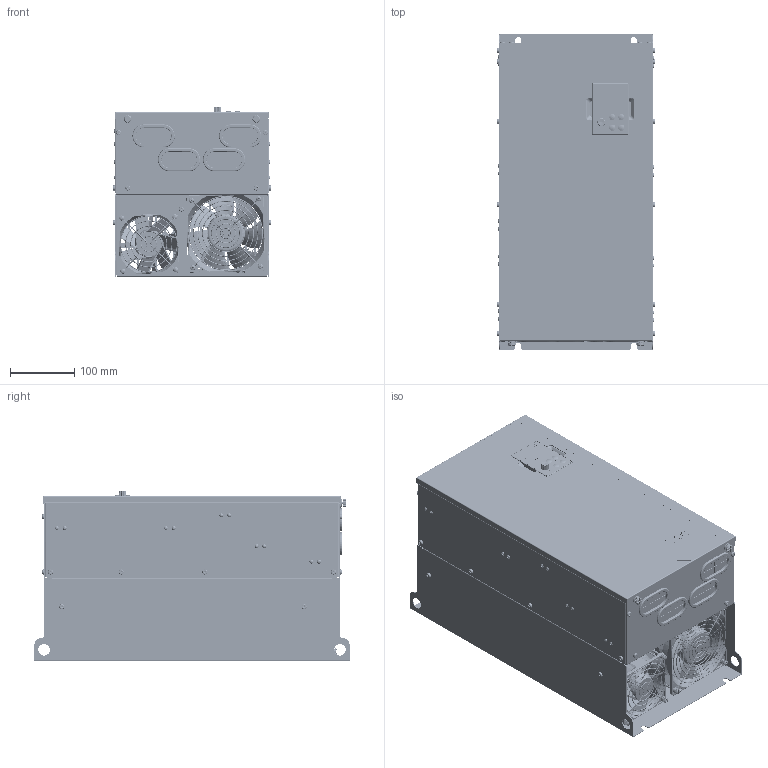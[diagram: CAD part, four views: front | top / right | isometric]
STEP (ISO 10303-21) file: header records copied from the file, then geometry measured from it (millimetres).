
FILE_DESCRIPTION((''),'2;1');
FILE_NAME('AD80-S5-DRIVE_45-55KW_ASM','2025-06-27T11:07:11',('wendong.luo'),(''),'CREO PARAMETRIC BY PTC INC, 2024374','CREO PARAMETRIC BY PTC INC, 2024374','');
FILE_SCHEMA(('CONFIG_CONTROL_DESIGN','GEOMETRIC_VALIDATION_PROPERTIES_MIM'));
Products named in the file (56): S5-MECHANICAL-PART_45-55KW; 25898; 35188; FAN12038_ASM; FAN9238; M0200009; M0200019; M0202090; M4-SPRING; M4-WASHER; M0202090_ASM; FAN-55KW_ASM; M0100015; SET230; E0400186; M0203246; M0203249; M0204033; M0202008; M0202003; P_FHS_5_10; RIVETING-NUT-4_; PEM-BSO-M4-10; M0202010; M0202094; M8-WASHER; M8-SPRING; M0202094_ASM; FASTEN-45-55KW_ASM; E0100880; E0400088; E0400085; E0400023; E0400067; E0400008; E0400009; E0400035; E0100880_ASM; M0104220; M0100238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
Assembly tree (157 placements, depth 5):
  AD80-S5-DRIVE_45-55KW_ASM
    AD80-S5-PU_45-55KW_ASM
      S5-MECHANICAL-PART_45-55KW
      FAN-55KW_ASM
        FAN12038_ASM
          25898
          35188
        FAN9238
        M0200009
        M0200019
        M0202090_ASM  x8
          M0202090
          M4-SPRING
          M4-WASHER
      M0100015  x2
      SET230  x3
      E0400186
      M0203246
      M0203249
      M0204033  x5
      FASTEN-45-55KW_ASM
        M0202008  x21
        M0202003  x30
        P_FHS_5_10  x9
        RIVETING-NUT-4_  x18
        PEM-BSO-M4-10  x4
        M0202010  x2
        M0202094_ASM  x3
          M0202094
          M8-WASHER
          M8-SPRING
      E0100880_ASM
        E0100880
        E0400088
        E0400085  x2
        E0400023
        E0400067
        E0400008
        E0400009  x2
        E0400035
      M0104220
      M0100238_ASM
        M0100238
      M4-MOUNTING-SCREW-RIVET  x2
      M0203053
    AD80-KP10_ASM
      KP10-MECHANICAL-PART
      E0100867_ASM
        E0100867
        E0400170
        E0400169
        E0200192
        E0200191
        0805-LED  x6
      KP10-FOIL
    M0203190
Bounding box: 246.2 x 490 x 265.55 mm (x, y, z)
Volume: 1627532.2 mm3; surface area: 2115400.6 mm2
Topology: 235 solids, 306 shells, 22902 faces, 59010 edges, 37462 vertices
Faces by surface type: plane 10650, cylinder 5699, bspline 2769, extrusion 1303, cone 1186, torus 935, sphere 360
Entity records: 675232 total; most frequent: CARTESIAN_POINT 174067, ORIENTED_EDGE 77168, DIRECTION 66543, EDGE_CURVE 38720, PRESENTATION_STYLE_ASSIGNMENT 35104, STYLED_ITEM 31303, CURVE_STYLE 30356, VECTOR 24935
